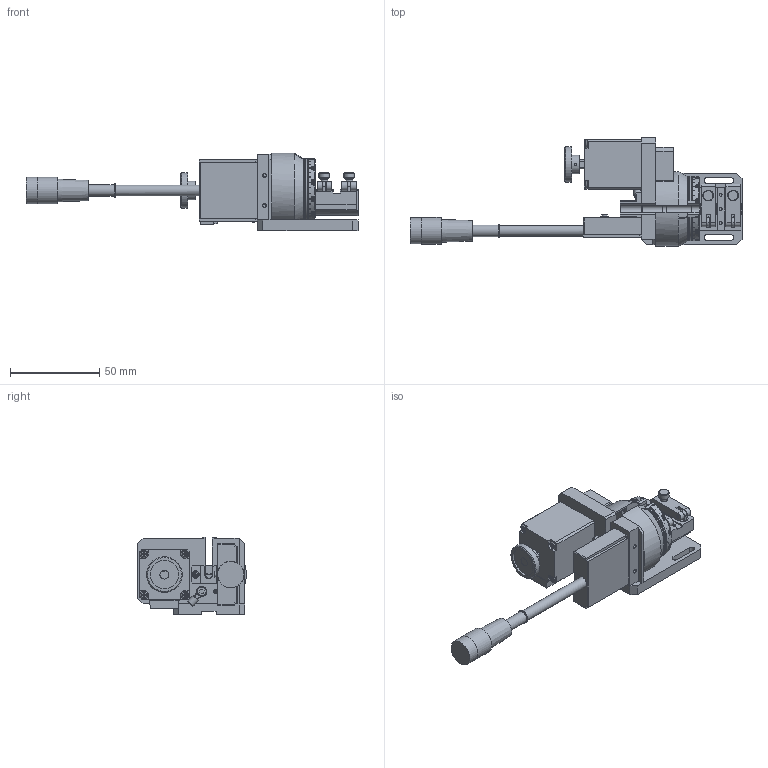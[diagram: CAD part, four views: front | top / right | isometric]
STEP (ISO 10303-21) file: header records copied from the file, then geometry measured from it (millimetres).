
FILE_DESCRIPTION(/* description */ (''),/* implementation_level */ '2;1');
FILE_NAME(/* name */ '\\fs301\share\Public_Div\生産本部_光学機器部\1_MEKA\1_motorized_stages\01_国内製品\50_FHRA\FHRA\FHRA-125_250R\Webダウンロード用データ\FHRA-125_250R_STP.stp',/* time_stamp */ '2023-03-23T10:17:08+09:00',/* author */ ('ta.murata'),/* organization */ (''),/* preprocessor_version */ 'ST-DEVELOPER v18.1',/* originating_system */ 'Autodesk Inventor 2021',/* authorisation */ '');
FILE_SCHEMA (('AUTOMOTIVE_DESIGN { 1 0 10303 214 3 1 1 }'));
Products named in the file (3): FHRA122R-M02-23001-TS01; FHRA122R-M02-23001-S01; FHRA122R-M02-23001-S02
Assembly tree (2 placements, depth 2):
  FHRA122R-M02-23001-TS01
    FHRA122R-M02-23001-S01
    FHRA122R-M02-23001-S02
Bounding box: 186.5 x 61 x 43.4 mm (x, y, z)
Volume: 107339.2 mm3; surface area: 46285.2 mm2
Topology: 3 solids, 74 shells, 3579 faces, 9448 edges, 6142 vertices
Faces by surface type: plane 1496, cylinder 1425, bspline 362, cone 290, torus 4, sphere 2
Full cylindrical faces by diameter (mm): 1.5 x5, 1.567 x1, 1.6 x15, 2 x24, 2.013 x4, 2.1 x9, 2.113 x4, 2.2 x6, 2.3 x1, 2.459 x2, 2.5 x21, 2.6 x2, 3 x20, 3.2 x1, 3.5 x6, 3.8 x13, 4 x6, 4.2 x4, 4.3 x1, 4.5 x10, 5 x3, 5.5 x11, 6 x15, 6.5 x1, 7 x3, 7.5 x1, 10 x1, 10.5 x1, 14.5 x2, 14.8 x1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
Entity records: 124435 total; most frequent: CARTESIAN_POINT 34307, ORIENTED_EDGE 18876, DIRECTION 17538, EDGE_CURVE 9438, AXIS2_PLACEMENT_3D 6286, VERTEX_POINT 6148, LINE 4966, VECTOR 4966
